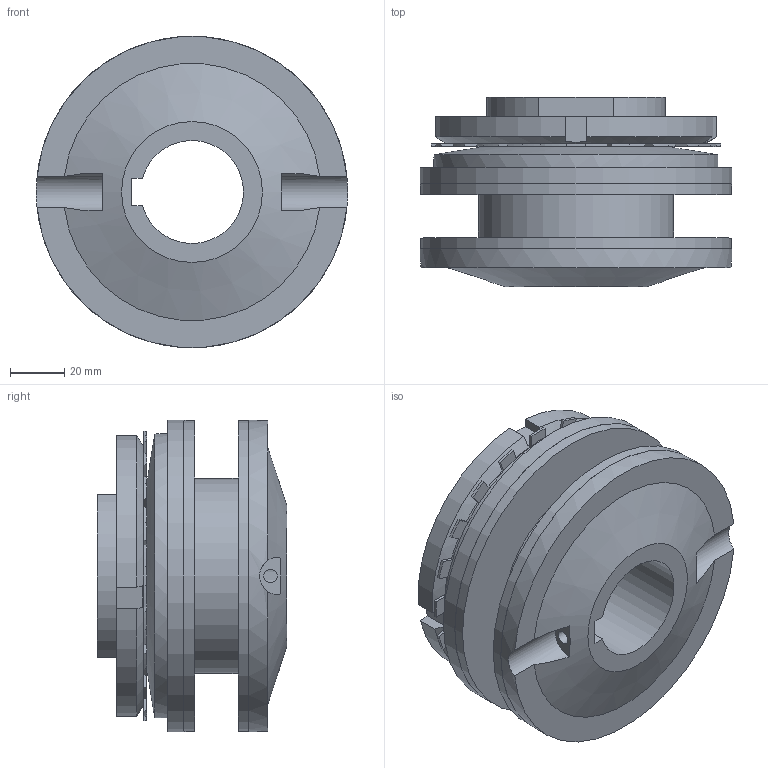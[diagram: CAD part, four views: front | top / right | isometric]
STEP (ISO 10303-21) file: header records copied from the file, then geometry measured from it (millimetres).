
FILE_DESCRIPTION( ( 'Unknown' ), '1' );
FILE_NAME( 'R:/utp/progettazione/3 D/DF/COMPLESSIVI/DF/3-115 DF GT.stp', 'Unknown', ( 'Unknown' ), ( 'Unknown' ), 'PSStep 10.1', 'Unknown', ' ' );
FILE_SCHEMA( ( 'AUTOMOTIVE_DESIGN { 1 0 10303 214 1 1 1 1 }' ) );
Length unit declared in the file: millimetre
Products named in the file (1): 1
Bounding box: 115 x 70 x 115 mm (x, y, z)
Volume: 389017 mm3; surface area: 90200 mm2
Topology: 1 solids, 2 shells, 161 faces, 451 edges, 300 vertices
Faces by surface type: plane 91, cylinder 66, cone 4
Full cylindrical faces by diameter (mm): 5.001 x1, 67 x1, 72 x2, 105 x1, 114.9 x2, 115 x2
Entity records: 7109 total; most frequent: CARTESIAN_POINT 1014, DIRECTION 872, ORIENTED_EDGE 854, EDGE_CURVE 427, PRESENTATION_STYLE_ASSIGNMENT 323, COLOUR_RGB 323, AXIS2_PLACEMENT_3D 307, VERTEX_POINT 289
